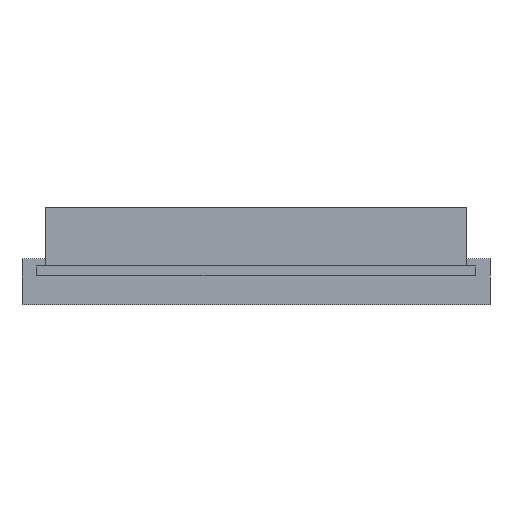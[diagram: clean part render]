
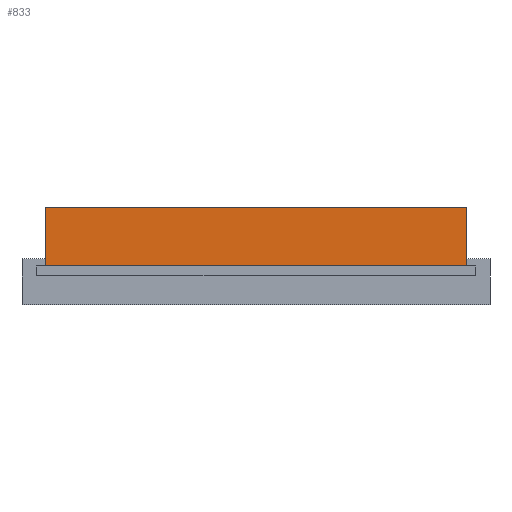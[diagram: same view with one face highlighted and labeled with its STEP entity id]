
A CAD part, front view. The second image highlights one B-rep face of the part: STEP entity #833.
In plain terms, the highlighted planar face has unit normal (0, -1, 0).
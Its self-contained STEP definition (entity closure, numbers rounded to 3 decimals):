
#155=DIRECTION('',(1.,0.,0.));
#156=VECTOR('',#155,14.4);
#157=CARTESIAN_POINT('',(-7.206,-64.092,0.));
#158=LINE('',#157,#156);
#300=DIRECTION('',(0.,0.,1.));
#301=VECTOR('',#300,2.);
#302=CARTESIAN_POINT('',(7.194,-64.092,0.));
#303=LINE('',#302,#301);
#304=DIRECTION('',(0.,0.,1.));
#305=VECTOR('',#304,2.);
#306=CARTESIAN_POINT('',(-7.206,-64.092,0.));
#307=LINE('',#306,#305);
#320=DIRECTION('',(1.,0.,0.));
#321=VECTOR('',#320,14.4);
#322=CARTESIAN_POINT('',(-7.206,-64.092,2.));
#323=LINE('',#322,#321);
#398=CARTESIAN_POINT('',(-7.206,-64.092,2.));
#400=VERTEX_POINT('',#398);
#401=CARTESIAN_POINT('',(7.194,-64.092,2.));
#402=VERTEX_POINT('',#401);
#406=CARTESIAN_POINT('',(-7.206,-64.092,0.));
#408=VERTEX_POINT('',#406);
#409=CARTESIAN_POINT('',(7.194,-64.092,0.));
#410=VERTEX_POINT('',#409);
#821=CARTESIAN_POINT('',(-7.206,-64.092,0.));
#822=DIRECTION('',(0.,-1.,0.));
#823=DIRECTION('',(1.,0.,0.));
#824=AXIS2_PLACEMENT_3D('',#821,#822,#823);
#825=PLANE('',#824);
#826=ORIENTED_EDGE('',*,*,#543,.F.);
#827=ORIENTED_EDGE('',*,*,#788,.T.);
#829=ORIENTED_EDGE('',*,*,#828,.T.);
#830=ORIENTED_EDGE('',*,*,#813,.F.);
#831=EDGE_LOOP('',(#826,#827,#829,#830));
#832=FACE_OUTER_BOUND('',#831,.F.);
#543=EDGE_CURVE('',#408,#410,#158,.T.);
#788=EDGE_CURVE('',#408,#400,#307,.T.);
#813=EDGE_CURVE('',#410,#402,#303,.T.);
#828=EDGE_CURVE('',#400,#402,#323,.T.);
#833=ADVANCED_FACE('',(#832),#825,.T.);
